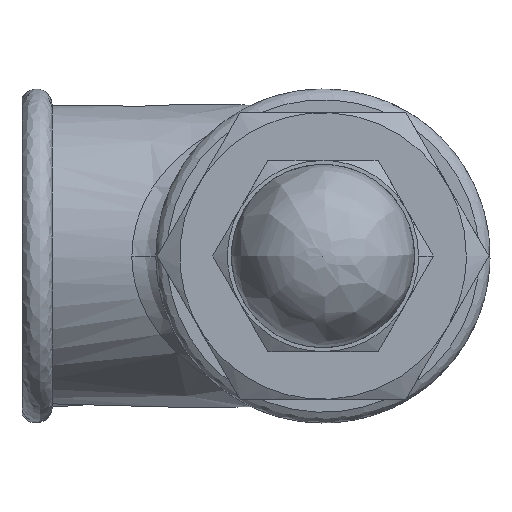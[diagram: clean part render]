
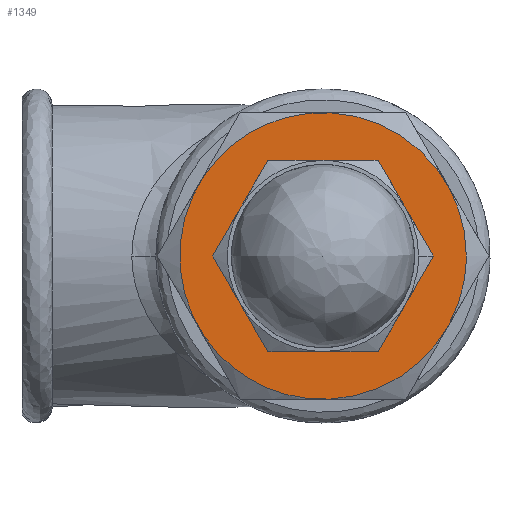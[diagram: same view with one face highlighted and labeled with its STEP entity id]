
A CAD part, left-side view. The second image highlights one B-rep face of the part: STEP entity #1349.
In plain terms, the highlighted free-form (B-spline) face has degree [1, 1] with [2, 2] control points.
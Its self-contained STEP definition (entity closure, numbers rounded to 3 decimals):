
#1291=CARTESIAN_POINT('V4',(13.5,9.95,
   0.));
#1292=VERTEX_POINT('V4',#1291);
#1300=CARTESIAN_POINT('E5',(13.5,9.95,
   0.));
#1301=CARTESIAN_POINT('E5',(13.5,9.95,
   17.234));
#1302=CARTESIAN_POINT('E5',(13.5,-4.975,
   8.617));
#1303=CARTESIAN_POINT('E5',(13.5,-19.9,
   0.));
#1304=CARTESIAN_POINT('E5',(13.5,-4.975,
   -8.617));
#1305=CARTESIAN_POINT('E5',(13.5,9.95,
   -17.234));
#1306=CARTESIAN_POINT('E5',(13.5,9.95,
   0.));
#1314=(BOUNDED_CURVE()B_SPLINE_CURVE(2,(#1300,#1301,#1302,#1303,
   #1304,#1305,#1306),.CIRCULAR_ARC.,.T.,.U.)
   B_SPLINE_CURVE_WITH_KNOTS((3,2,2,3),(0.0,22.979,
   45.957,68.936),.UNSPECIFIED.)CURVE()
   GEOMETRIC_REPRESENTATION_ITEM()RATIONAL_B_SPLINE_CURVE((1.0,
   0.5,1.0,0.5,1.0,0.5,1.0)
   )REPRESENTATION_ITEM('E5'));
#1315=EDGE_CURVE('E5',#1292,#1292,#1314,.T.);
#1320=CARTESIAN_POINT('F3',(13.5,22.88,
   -19.815));
#1321=CARTESIAN_POINT('F3',(13.5,-22.88,
   -19.815));
#1322=CARTESIAN_POINT('F3',(13.5,22.88,
   19.815));
#1323=CARTESIAN_POINT('F3',(13.5,-22.88,
   19.815));
#1324=QUASI_UNIFORM_SURFACE('F3',1,1,((#1320,#1322),(#1321,#1323)),
   .PLANE_SURF.,.F.,.F.,.U.);
#1325=CARTESIAN_POINT('V3',(13.5,-18.,
   0.));
#1326=VERTEX_POINT('V3',#1325);
#1327=CARTESIAN_POINT('E4',(13.5,-18.,
   0.));
#1328=CARTESIAN_POINT('E4',(13.5,-18.,
   31.177));
#1329=CARTESIAN_POINT('E4',(13.5,9.,
   15.588));
#1330=CARTESIAN_POINT('E4',(13.5,36.,
   0.));
#1331=CARTESIAN_POINT('E4',(13.5,9.,
   -15.588));
#1332=CARTESIAN_POINT('E4',(13.5,-18.,
   -31.177));
#1333=CARTESIAN_POINT('E4',(13.5,-18.,
   0.));
#1341=(BOUNDED_CURVE()B_SPLINE_CURVE(2,(#1327,#1328,#1329,#1330,
   #1331,#1332,#1333),.CIRCULAR_ARC.,.T.,.U.)
   B_SPLINE_CURVE_WITH_KNOTS((3,2,2,3),(0.0,17.088,
   34.177,51.265),.UNSPECIFIED.)CURVE()
   GEOMETRIC_REPRESENTATION_ITEM()RATIONAL_B_SPLINE_CURVE((1.0,
   0.5,1.0,0.5,1.0,0.5,1.0)
   )REPRESENTATION_ITEM('E4'));
#1342=EDGE_CURVE('E4',#1326,#1326,#1341,.T.);
#1343=ORIENTED_EDGE('E4',*,*,#1342,.T.);
#1344=EDGE_LOOP('F3',(#1343));
#1345=FACE_OUTER_BOUND('F3',#1344,.T.);
#1346=ORIENTED_EDGE('F63',*,*,#1315,.T.);
#1347=EDGE_LOOP('F3',(#1346));
#1348=FACE_BOUND('F3',#1347,.T.);
#1349=ADVANCED_FACE('F3',(#1345,#1348),#1324,.T.);
